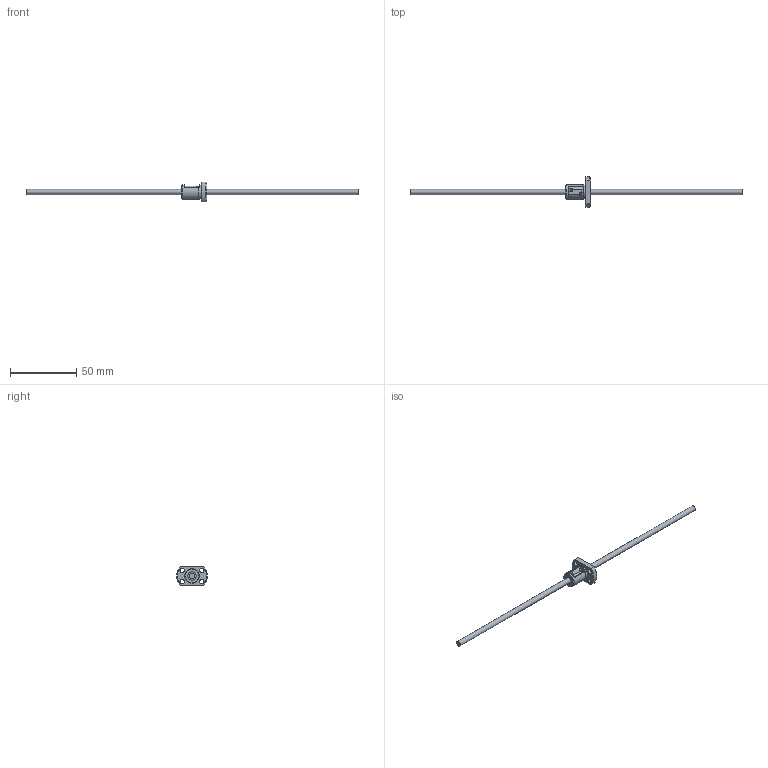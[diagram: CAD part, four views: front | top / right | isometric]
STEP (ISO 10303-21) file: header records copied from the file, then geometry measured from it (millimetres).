
FILE_DESCRIPTION( ( 'STEP AP214' ), ' ' );
FILE_NAME( 'p:/temp/worker_4/1548_2664/app_44_12015091121495537328842260eae72_000000_00_00_000000/format_0/SR0402-250R250C7(117).stp', '2015-09-11T19:49:55', ( '' ), ( '' ), ' ', 'PARTsolutions', ' ' );
FILE_SCHEMA( ( 'AUTOMOTIVE_DESIGN { 1 0 10303 214 1 1 1 1 }' ) );
Length unit declared in the file: millimetre
Products named in the file (3): SR0402-250R250C7(117); _SR0402(117)_shaft; _SR0402C7_nut
Assembly tree (2 placements, depth 2):
  SR0402-250R250C7(117)
    _SR0402(117)_shaft
    _SR0402C7_nut
Bounding box: 250 x 22.93 x 15 mm (x, y, z)
Volume: 5324.7 mm3; surface area: 4919.2 mm2
Topology: 2 solids, 2 shells, 48 faces, 119 edges, 78 vertices
Faces by surface type: plane 25, cylinder 18, cone 5
Full cylindrical faces by diameter (mm): 3.4 x4, 4 x2, 6.175 x2, 10.6 x1, 11 x1
Entity records: 1854 total; most frequent: CARTESIAN_POINT 297, DIRECTION 242, ORIENTED_EDGE 210, EDGE_CURVE 105, AXIS2_PLACEMENT_3D 100, VERTEX_POINT 75, EDGE_LOOP 72, FACE_OUTER_BOUND 58
